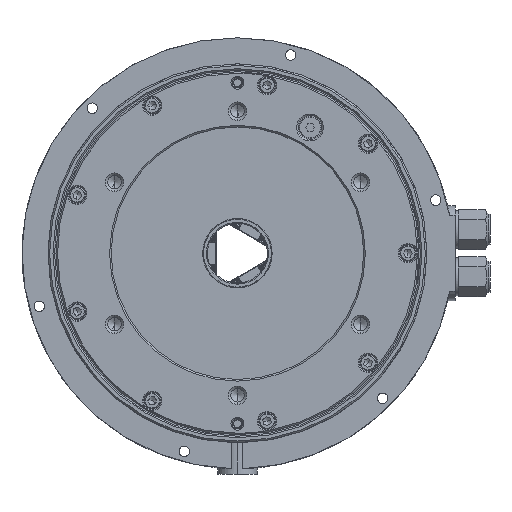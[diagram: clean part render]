
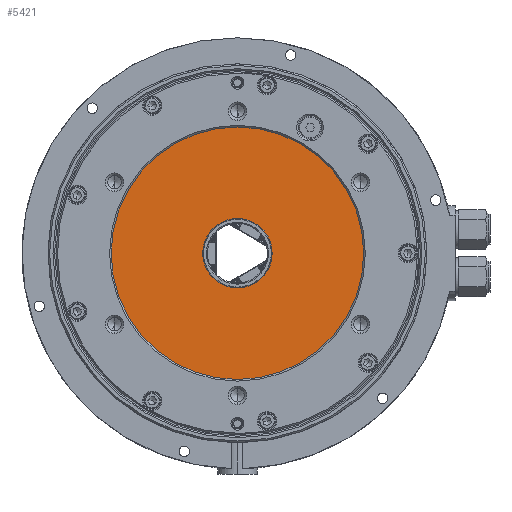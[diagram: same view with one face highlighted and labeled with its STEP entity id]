
A CAD part, left-side view. The second image highlights one B-rep face of the part: STEP entity #5421.
In plain terms, the highlighted planar face has unit normal (-1, 0, 0).
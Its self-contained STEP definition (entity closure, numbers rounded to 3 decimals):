
#2089 = DIRECTION ( 'NONE',  ( 1., 0., 0. ) ) ;
#5421 = ADVANCED_FACE ( 'NONE', ( #93192, #11924 ), #51966, .F. ) ;
#6071 = CARTESIAN_POINT ( 'NONE',  ( -7.5, 0., 22. ) ) ;
#10282 = DIRECTION ( 'NONE',  ( -1., 0., 0. ) ) ;
#10645 = CIRCLE ( 'NONE', #29562, 80. ) ;
#11924 = FACE_OUTER_BOUND ( 'NONE', #13883, .T. ) ;
#13883 = EDGE_LOOP ( 'NONE', ( #32007, #20041 ) ) ;
#19322 = AXIS2_PLACEMENT_3D ( 'NONE', #53361, #83460, #123479 ) ;
#20041 = ORIENTED_EDGE ( 'NONE', *, *, #59464, .T. ) ;
#22297 = CARTESIAN_POINT ( 'NONE',  ( -7.5, 0., 0. ) ) ;
#29221 = CARTESIAN_POINT ( 'NONE',  ( -7.5, 0., -80. ) ) ;
#29562 = AXIS2_PLACEMENT_3D ( 'NONE', #49845, #80585, #120609 ) ;
#29853 = EDGE_CURVE ( 'NONE', #95134, #68450, #33438, .T. ) ;
#32007 = ORIENTED_EDGE ( 'NONE', *, *, #69863, .T. ) ;
#33438 = CIRCLE ( 'NONE', #117128, 22. ) ;
#42138 = DIRECTION ( 'NONE',  ( 0., 0., -1. ) ) ;
#42222 = CARTESIAN_POINT ( 'NONE',  ( -7.5, 0., -22. ) ) ;
#49845 = CARTESIAN_POINT ( 'NONE',  ( -7.5, 0., 0. ) ) ;
#51966 = PLANE ( 'NONE',  #85614 ) ;
#53361 = CARTESIAN_POINT ( 'NONE',  ( -7.5, 0., 0. ) ) ;
#56762 = ORIENTED_EDGE ( 'NONE', *, *, #29853, .F. ) ;
#58833 = DIRECTION ( 'NONE',  ( 0., 0., 1. ) ) ;
#59464 = EDGE_CURVE ( 'NONE', #117086, #117548, #74182, .T. ) ;
#63327 = CIRCLE ( 'NONE', #19322, 22. ) ;
#68450 = VERTEX_POINT ( 'NONE', #6071 ) ;
#69863 = EDGE_CURVE ( 'NONE', #117548, #117086, #10645, .T. ) ;
#70309 = ORIENTED_EDGE ( 'NONE', *, *, #125600, .F. ) ;
#74182 = CIRCLE ( 'NONE', #124447, 80. ) ;
#80585 = DIRECTION ( 'NONE',  ( -1., 0., 0. ) ) ;
#83460 = DIRECTION ( 'NONE',  ( -1., 0., 0. ) ) ;
#85614 = AXIS2_PLACEMENT_3D ( 'NONE', #91899, #2089, #42138 ) ;
#91899 = CARTESIAN_POINT ( 'NONE',  ( -7.5, 22., 0. ) ) ;
#93192 = FACE_BOUND ( 'NONE', #121020, .T. ) ;
#95134 = VERTEX_POINT ( 'NONE', #42222 ) ;
#100084 = CARTESIAN_POINT ( 'NONE',  ( -7.5, 0., 0. ) ) ;
#104177 = DIRECTION ( 'NONE',  ( 0., 0., 1. ) ) ;
#114669 = DIRECTION ( 'NONE',  ( -1., 0., 0. ) ) ;
#117086 = VERTEX_POINT ( 'NONE', #29221 ) ;
#117128 = AXIS2_PLACEMENT_3D ( 'NONE', #22297, #114669, #104177 ) ;
#117548 = VERTEX_POINT ( 'NONE', #120810 ) ;
#120609 = DIRECTION ( 'NONE',  ( 0., 0., 1. ) ) ;
#120810 = CARTESIAN_POINT ( 'NONE',  ( -7.5, 0., 80. ) ) ;
#121020 = EDGE_LOOP ( 'NONE', ( #70309, #56762 ) ) ;
#123479 = DIRECTION ( 'NONE',  ( 0., 0., 1. ) ) ;
#124447 = AXIS2_PLACEMENT_3D ( 'NONE', #100084, #10282, #58833 ) ;
#125600 = EDGE_CURVE ( 'NONE', #68450, #95134, #63327, .T. ) ;
